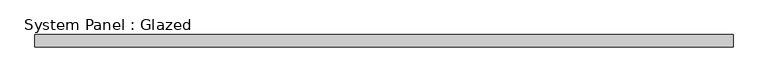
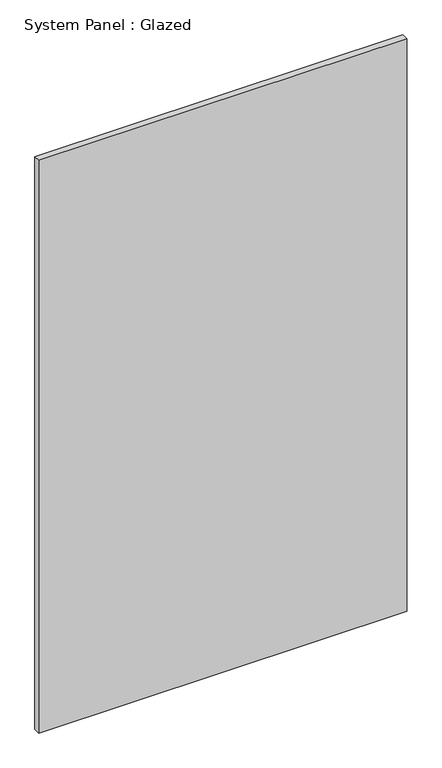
"""IFC4 building model written with IfcOpenShell, lengths in millimetres: plate geometry, System Panel : Glazed."""

from ifc_helpers import new_model, si_unit, origin, origin_with_axes, place, context, project, spatial, polyline, outline, extrude, source, transform, mapped, element, save


def system_panel_glazed_3d8f6b4e(model_context):
    return source(origin(), model_context, "Body", "SweptSolid", [
        extrude(outline(polyline([(714.463158, 24.5), (-714.463158, 24.5), (-714.463158, 49.5), (714.463158, 49.5), (714.463158, 24.5)])), origin_with_axes(), (0.0, 0.0, 1.0), 2350.0),
    ])


if __name__ == "__main__":
    model = new_model("IFC4")
    model_context = context("Model", 3, world=origin())
    ifc_project = project(units=[si_unit("LENGTHUNIT", "METRE", prefix="MILLI")], contexts=[model_context])
    site = spatial("IfcSite", under=ifc_project)
    building = spatial("IfcBuilding", under=site)
    placement = place(None, origin())
    system_panel_glazed_shape = system_panel_glazed_3d8f6b4e(model_context)
    element("IfcPlate", 1, ObjectType="System Panel : Glazed", at=placement, inside=building, context=model_context, shape_type="MappedRepresentation", body=[
        mapped(system_panel_glazed_shape, transform((0.0, 0.0, 0.0), x_axis=(1.0, 0.0, 0.0), y_axis=(0.0, 1.0, 0.0), z_axis=(0.0, 0.0, 1.0))),
    ])
    save(model, "model.ifc")
